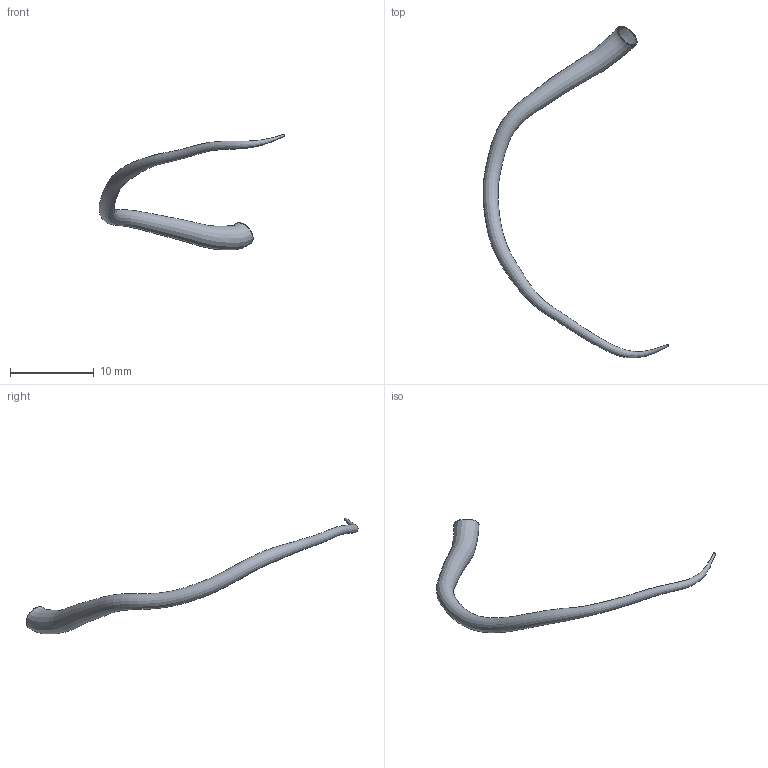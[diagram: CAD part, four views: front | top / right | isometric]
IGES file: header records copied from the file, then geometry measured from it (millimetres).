
Global section: file name: C:\Documents and Settings\Administrator\Desktop\FDA-Pig\Domestic LCA\Pig_000003\lcx.seg.ed.igs; native system: Rhinoceros ( May 19 2006 ); preprocessor: Trout Lake IGES 012 May 19 2006; date: 111205.182907; units: centimetre
Bounding box: 22.27 x 39.75 x 13.89 mm (x, y, z)
Surface area: 628.7 mm2 (no closed solid volume)
Topology: 0 solids, 0 shells, 4 faces, 12 edges, 8 vertices
Faces by surface type: bspline 4
